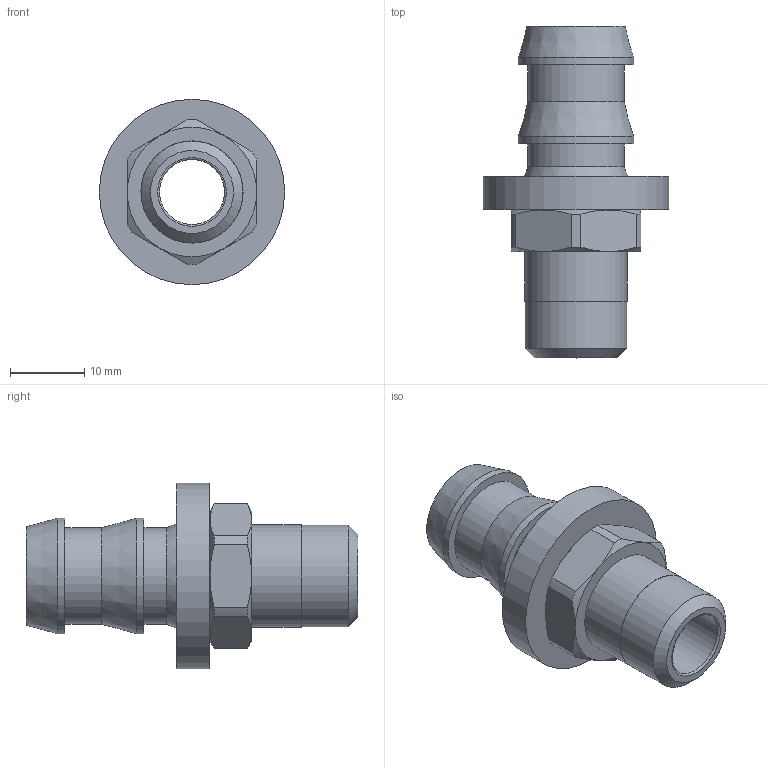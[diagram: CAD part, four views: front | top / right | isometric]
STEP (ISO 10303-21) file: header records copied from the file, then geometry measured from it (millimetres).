
FILE_DESCRIPTION(/* description */ (''),/* implementation_level */ '2;1');
FILE_NAME(/* name */ 'C:/Users/drich/Desktop/PLM-08-04 v1.step',/* time_stamp */ '2020-02-02T14:46:44-06:00',/* author */ (''),/* organization */ (''),/* preprocessor_version */ 'ST-DEVELOPER v18',/* originating_system */ 'Autodesk Translation Framework v8.12.0.6',/* authorisation */ '');
FILE_SCHEMA (('AUTOMOTIVE_DESIGN { 1 0 10303 214 3 1 1 }'));
Length unit declared in the file: inch
Products named in the file (3): PLM-08-04; 14 -04 THREAD v2; FW-10
Assembly tree (2 placements, depth 2):
  PLM-08-04
    14 -04 THREAD v2
    FW-10
Bounding box: 24.89 x 44.58 x 24.89 mm (x, y, z)
Volume: 4793 mm3; surface area: 5267.7 mm2
Topology: 3 solids, 3 shells, 45 faces, 119 edges, 86 vertices
Faces by surface type: cylinder 19, plane 18, cone 7, torus 1
Full cylindrical faces by diameter (mm): 8.712 x1, 10.312 x1, 12.954 x2, 13.691 x1, 13.741 x1, 13.894 x1, 14.859 x1, 15.494 x3, 22.352 x1, 24.892 x1
Entity records: 1570 total; most frequent: DIRECTION 282, CARTESIAN_POINT 279, ORIENTED_EDGE 238, AXIS2_PLACEMENT_3D 125, EDGE_CURVE 119, VERTEX_POINT 86, CIRCLE 75, EDGE_LOOP 57
